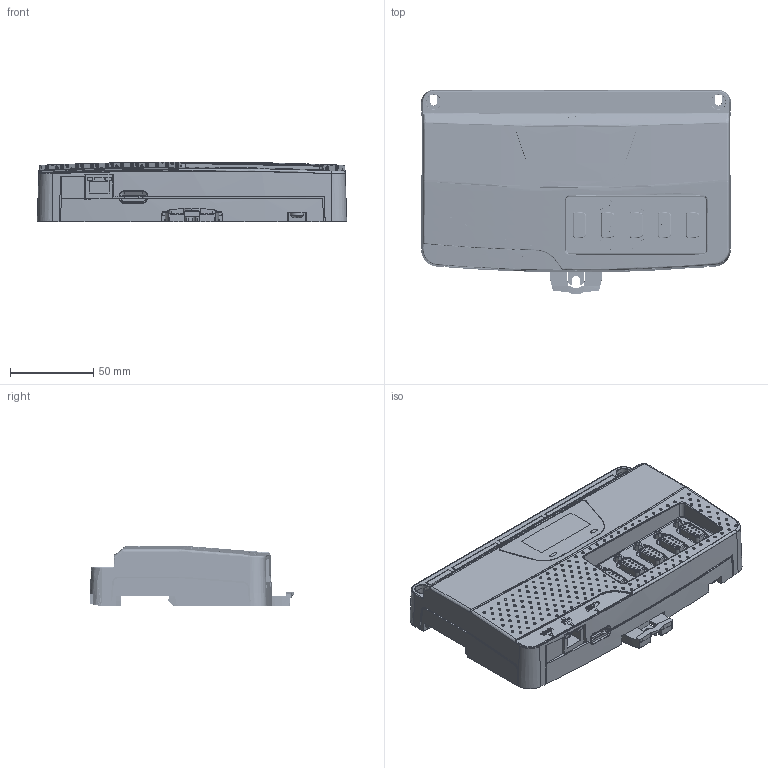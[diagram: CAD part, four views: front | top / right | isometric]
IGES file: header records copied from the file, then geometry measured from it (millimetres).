
Start section: SolidWorks IGES file using analytic representation for surfaces
Global section: file name: S:\TRO-03\Solidworks Data\MC406\Solid model\TRO-03 MC406 Solid.IGS; native system: SolidWorks 2011; preprocessor: SolidWorks 2011; author: Ross; date: 111103.124919; units: millimetre
Bounding box: 186 x 123 x 36 mm (x, y, z)
Surface area: 77321.9 mm2 (no closed solid volume)
Topology: 0 solids, 0 shells, 3198 faces, 37176 edges, 37147 vertices
Faces by surface type: bspline 2380, revolution 818
